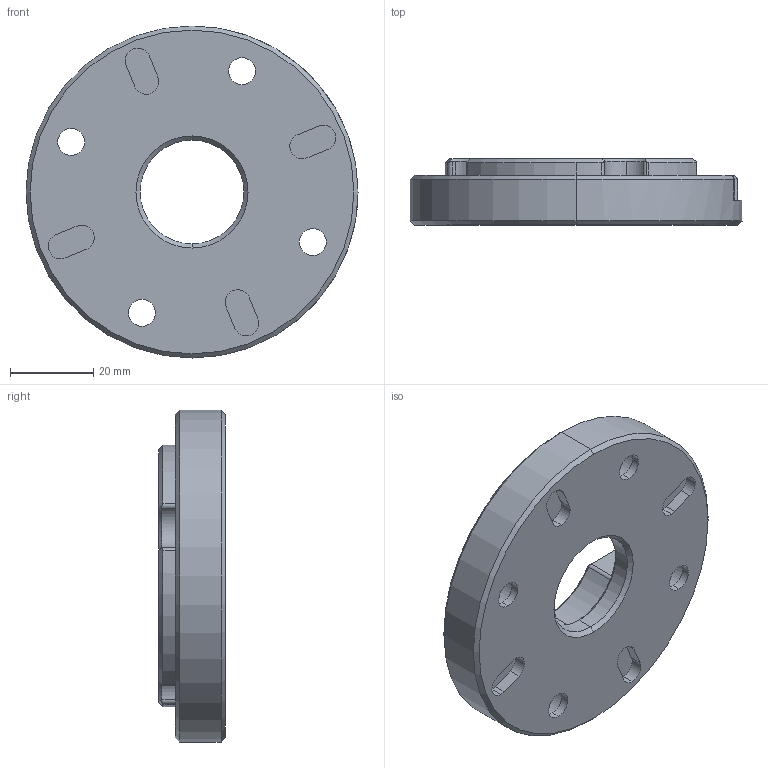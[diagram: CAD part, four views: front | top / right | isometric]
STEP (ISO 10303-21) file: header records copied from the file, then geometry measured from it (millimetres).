
FILE_DESCRIPTION (( 'STEP AP214' ), '1' );
FILE_NAME ('101690.step', '2019-08-02T13:26:19', ( '' ), ( '' ), 'SwSTEP 2.0', 'SolidWorks 2019', '' );
FILE_SCHEMA (( 'AUTOMOTIVE_DESIGN' ));
Length unit declared in the file: millimetre
Products named in the file (1): 101690
Bounding box: 80 x 16 x 80 mm (x, y, z)
Volume: 51490.6 mm3; surface area: 15924.4 mm2
Topology: 1 solids, 1 shells, 152 faces, 402 edges, 252 vertices
Faces by surface type: cylinder 65, cone 49, plane 38
Entity records: 4935 total; most frequent: CARTESIAN_POINT 1028, DIRECTION 819, ORIENTED_EDGE 784, EDGE_CURVE 392, AXIS2_PLACEMENT_3D 321, VERTEX_POINT 252, VECTOR 177, LINE 177
